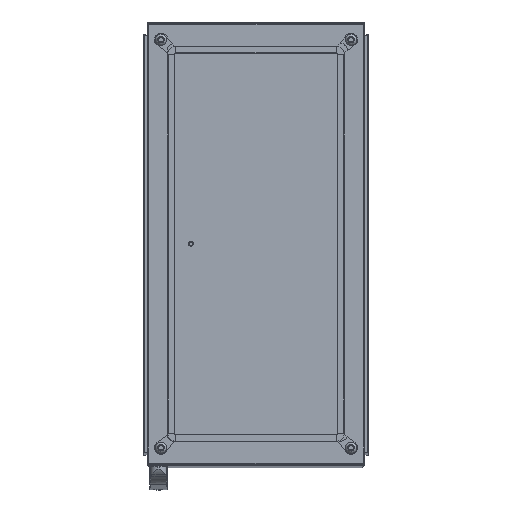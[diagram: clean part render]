
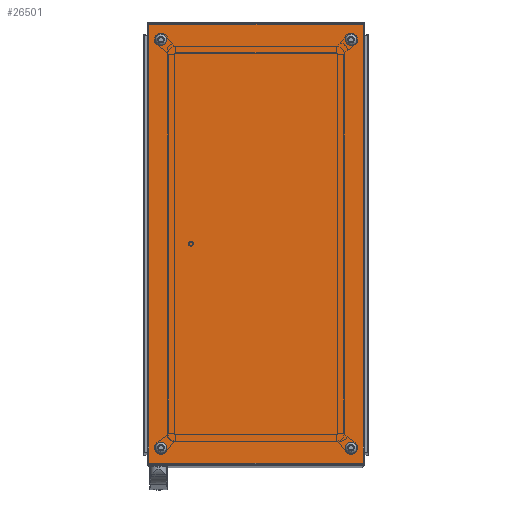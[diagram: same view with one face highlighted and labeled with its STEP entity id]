
A CAD part, top view. The second image highlights one B-rep face of the part: STEP entity #26501.
In plain terms, the highlighted planar face has unit normal (0, 0, 1).
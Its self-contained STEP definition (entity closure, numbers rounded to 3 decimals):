
#1329=CIRCLE('',#28480,6.);
#1330=CIRCLE('',#28481,6.);
#1331=CIRCLE('',#28482,6.);
#1332=CIRCLE('',#28483,6.);
#5053=ORIENTED_EDGE('',*,*,#11327,.F.);
#5054=ORIENTED_EDGE('',*,*,#11328,.F.);
#5055=ORIENTED_EDGE('',*,*,#11329,.F.);
#5056=ORIENTED_EDGE('',*,*,#11330,.F.);
#5057=ORIENTED_EDGE('',*,*,#11316,.T.);
#5058=ORIENTED_EDGE('',*,*,#11324,.T.);
#5059=ORIENTED_EDGE('',*,*,#11287,.F.);
#5060=ORIENTED_EDGE('',*,*,#11331,.F.);
#11287=EDGE_CURVE('',#14659,#14660,#17303,.T.);
#11316=EDGE_CURVE('',#14681,#14680,#17309,.T.);
#11324=EDGE_CURVE('',#14680,#14660,#17314,.T.);
#11327=EDGE_CURVE('',#14682,#14682,#1329,.T.);
#11328=EDGE_CURVE('',#14683,#14683,#1330,.T.);
#11329=EDGE_CURVE('',#14684,#14684,#1331,.T.);
#11330=EDGE_CURVE('',#14685,#14685,#1332,.T.);
#11331=EDGE_CURVE('',#14681,#14659,#17317,.T.);
#14659=VERTEX_POINT('',#41433);
#14660=VERTEX_POINT('',#41435);
#14680=VERTEX_POINT('',#41509);
#14681=VERTEX_POINT('',#41511);
#14682=VERTEX_POINT('',#41528);
#14683=VERTEX_POINT('',#41530);
#14684=VERTEX_POINT('',#41532);
#14685=VERTEX_POINT('',#41534);
#17303=LINE('',#41434,#19620);
#17309=LINE('',#41510,#19626);
#17314=LINE('',#41522,#19631);
#17317=LINE('',#41535,#19634);
#19620=VECTOR('',#33212,1000.);
#19626=VECTOR('',#33266,1000.);
#19631=VECTOR('',#33283,1000.);
#19634=VECTOR('',#33298,1000.);
#21635=EDGE_LOOP('',(#5053));
#21636=EDGE_LOOP('',(#5054));
#21637=EDGE_LOOP('',(#5055));
#21638=EDGE_LOOP('',(#5056));
#21639=EDGE_LOOP('',(#5057,#5058,#5059,#5060));
#23786=FACE_BOUND('',#21635,.T.);
#23787=FACE_BOUND('',#21636,.T.);
#23788=FACE_BOUND('',#21637,.T.);
#23789=FACE_BOUND('',#21638,.T.);
#23790=FACE_BOUND('',#21639,.T.);
#25594=PLANE('',#28479);
#26501=ADVANCED_FACE('',(#23786,#23787,#23788,#23789,#23790),#25594,.T.);
#28479=AXIS2_PLACEMENT_3D('',#41526,#33288,#33289);
#28480=AXIS2_PLACEMENT_3D('',#41527,#33290,#33291);
#28481=AXIS2_PLACEMENT_3D('',#41529,#33292,#33293);
#28482=AXIS2_PLACEMENT_3D('',#41531,#33294,#33295);
#28483=AXIS2_PLACEMENT_3D('',#41533,#33296,#33297);
#33212=DIRECTION('',(-1.,0.,0.));
#33266=DIRECTION('',(-1.,0.,0.));
#33283=DIRECTION('',(0.,-1.,0.));
#33288=DIRECTION('',(0.,0.,1.));
#33289=DIRECTION('',(1.,0.,0.));
#33290=DIRECTION('',(0.,0.,1.));
#33291=DIRECTION('',(1.,0.,0.));
#33292=DIRECTION('',(0.,0.,1.));
#33293=DIRECTION('',(1.,0.,0.));
#33294=DIRECTION('',(0.,0.,1.));
#33295=DIRECTION('',(1.,0.,0.));
#33296=DIRECTION('',(0.,0.,1.));
#33297=DIRECTION('',(1.,0.,0.));
#33298=DIRECTION('',(0.,-1.,0.));
#41433=CARTESIAN_POINT('',(196.5,-402.5,20.));
#41434=CARTESIAN_POINT('',(200.,-402.5,20.));
#41435=CARTESIAN_POINT('',(-196.5,-402.5,20.));
#41509=CARTESIAN_POINT('',(-196.5,402.5,20.));
#41510=CARTESIAN_POINT('',(200.,402.5,20.));
#41511=CARTESIAN_POINT('',(196.5,402.5,20.));
#41522=CARTESIAN_POINT('',(-196.5,405.5,20.));
#41526=CARTESIAN_POINT('',(-196.5,-402.5,20.));
#41527=CARTESIAN_POINT('',(174.5,-374.5,20.));
#41528=CARTESIAN_POINT('',(180.5,-374.5,20.));
#41529=CARTESIAN_POINT('',(-174.5,374.5,20.));
#41530=CARTESIAN_POINT('',(-168.5,374.5,20.));
#41531=CARTESIAN_POINT('',(174.5,374.5,20.));
#41532=CARTESIAN_POINT('',(180.5,374.5,20.));
#41533=CARTESIAN_POINT('',(-174.5,-374.5,20.));
#41534=CARTESIAN_POINT('',(-168.5,-374.5,20.));
#41535=CARTESIAN_POINT('',(196.5,405.5,20.));
